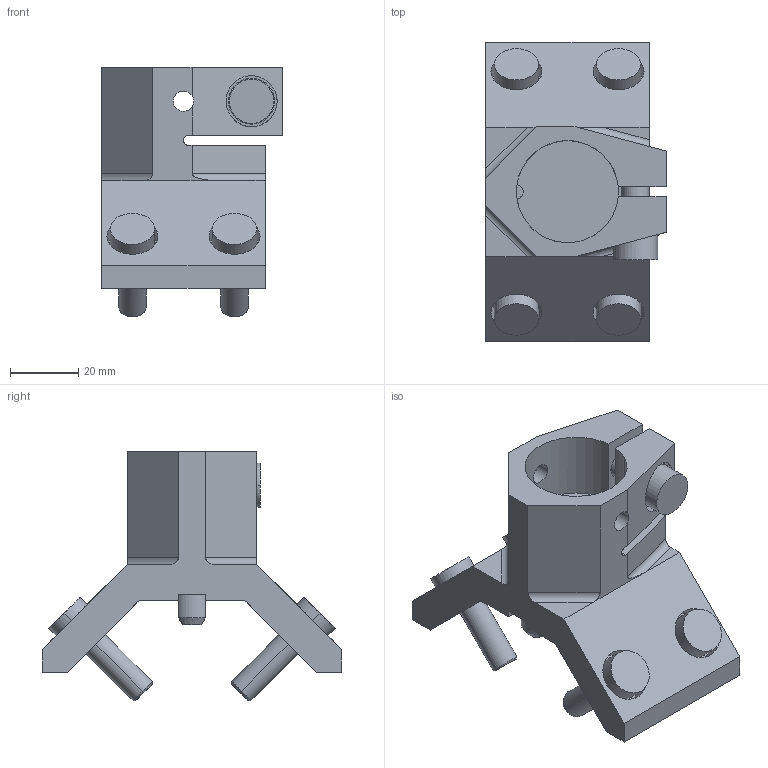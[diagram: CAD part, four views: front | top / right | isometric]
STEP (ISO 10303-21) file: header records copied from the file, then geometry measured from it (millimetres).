
FILE_DESCRIPTION(('STEP AP214'),'1');
FILE_NAME('EGT119_1710599_ADAPTER_SW80_RD30_FORM_L.CATPart.stp','2015-09-14T13:09:03',('3D-Tool'),(' '),'Spatial InterOp 3D',' ',' ');
FILE_SCHEMA(('automotive_design'));
Length unit declared in the file: millimetre
Products named in the file (1): EGT119_1710599_ADAPTER_SW80_RD30_FORM_L|PartBody|Assemble.39
Bounding box: 53 x 88 x 73.33 mm (x, y, z)
Volume: 79380.7 mm3; surface area: 29295.3 mm2
Topology: 1 solids, 1 shells, 186 faces, 468 edges, 307 vertices
Faces by surface type: cylinder 102, plane 70, cone 14
Entity records: 7628 total; most frequent: CARTESIAN_POINT 1508, DIRECTION 1005, ORIENTED_EDGE 936, EDGE_CURVE 468, AXIS2_PLACEMENT_3D 388, VERTEX_POINT 307, LINE 229, VECTOR 229
